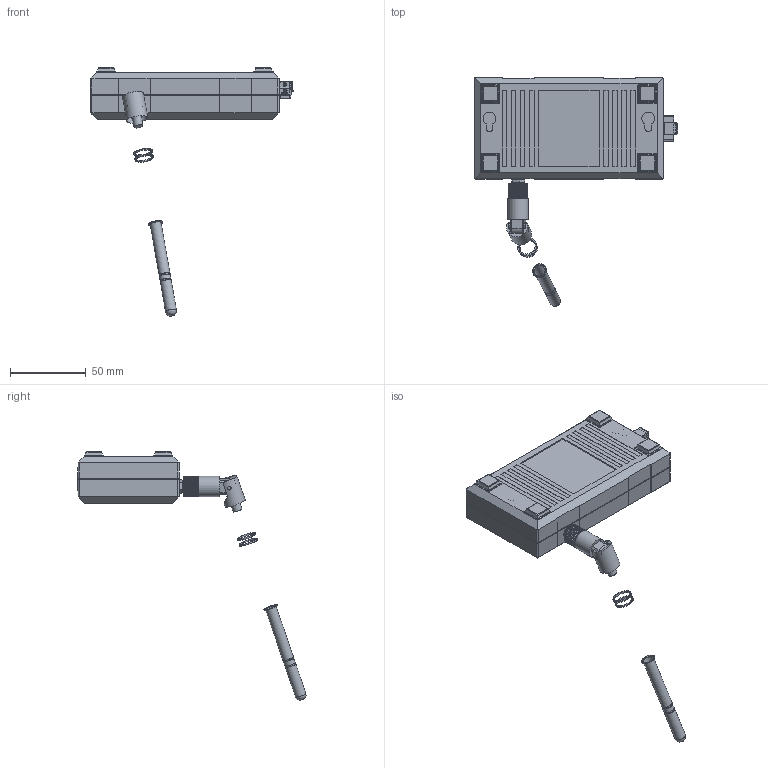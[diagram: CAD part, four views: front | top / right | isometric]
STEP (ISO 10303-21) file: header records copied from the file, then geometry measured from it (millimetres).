
FILE_DESCRIPTION(/* description */ (''),/* implementation_level */ '2;1');
FILE_NAME(/* name */ 'KNX_IP_Interface_740_2_wireless_secure.stp',/* time_stamp */ '2025-10-02T15:14:32+02:00',/* author */ (''),/* organization */ (''),/* preprocessor_version */ 'ST-DEVELOPER v20',/* originating_system */ 'Autodesk Inventor 2025',/* authorisation */ '');
FILE_SCHEMA (('AUTOMOTIVE_DESIGN { 1 0 10303 214 3 1 1 }'));
Products named in the file (1): KNX_IP_Interface_740_2_wireless_secure
Bounding box: 134.47 x 150.89 x 164.16 mm (x, y, z)
Volume: 263807.2 mm3; surface area: 40866.7 mm2
Topology: 1 solids, 6 shells, 1251 faces, 3534 edges, 2321 vertices
Faces by surface type: plane 858, cylinder 262, bspline 77, cone 34, torus 15, sphere 5
Full cylindrical faces by diameter (mm): 1 x1, 1.3 x1, 2 x3, 2.5 x2, 2.75 x2, 2.8 x2, 2.9 x2, 3.8 x2, 3.9 x2, 4 x2, 4.13 x1, 4.6 x1, 5.3 x1, 6 x2, 6.25 x2, 6.35 x1, 7.25 x3, 8 x1, 10 x1, 10.01 x1, 11 x2, 13.5 x1, 14 x1
Entity records: 48757 total; most frequent: CARTESIAN_POINT 15513, ORIENTED_EDGE 7056, DIRECTION 6108, EDGE_CURVE 3528, LINE 2326, VECTOR 2326, VERTEX_POINT 2321, AXIS2_PLACEMENT_3D 1891
